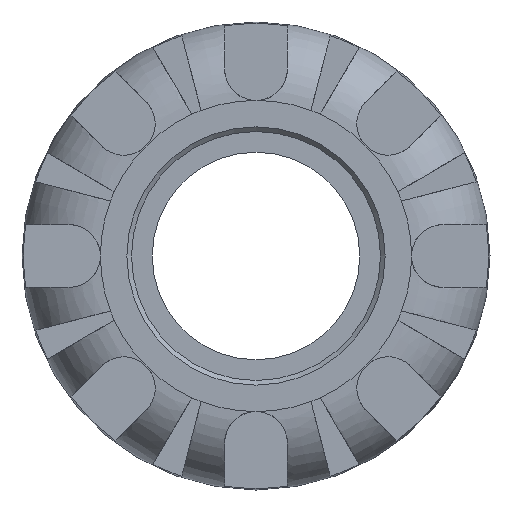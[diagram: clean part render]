
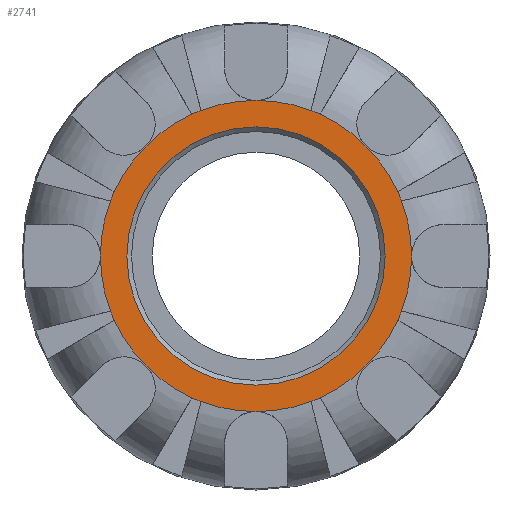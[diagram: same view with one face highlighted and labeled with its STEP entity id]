
A CAD part, left-side view. The second image highlights one B-rep face of the part: STEP entity #2741.
In plain terms, the highlighted planar face has unit normal (-1, 0, 0).
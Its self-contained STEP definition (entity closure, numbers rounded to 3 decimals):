
#22=FACE_BOUND('',#619,.T.);
#47=PLANE('',#2921);
#453=FACE_OUTER_BOUND('',#618,.T.);
#618=EDGE_LOOP('',(#1765,#1766,#1767,#1768,#1769,#1770,#1771,#1772,#1773,
#1774,#1775,#1776,#1777,#1778,#1779,#1780,#1781,#1782,#1783,#1784,#1785,
#1786,#1787,#1788));
#619=EDGE_LOOP('',(#1789));
#796=CIRCLE('',#2920,12.97);
#797=CIRCLE('',#2922,15.625);
#798=CIRCLE('',#2923,15.625);
#799=CIRCLE('',#2924,15.625);
#800=CIRCLE('',#2925,15.625);
#801=CIRCLE('',#2926,15.625);
#802=CIRCLE('',#2927,15.625);
#803=CIRCLE('',#2928,15.625);
#804=CIRCLE('',#2929,15.625);
#805=CIRCLE('',#2930,15.625);
#806=CIRCLE('',#2931,15.625);
#807=CIRCLE('',#2932,15.625);
#808=CIRCLE('',#2933,15.625);
#809=CIRCLE('',#2934,15.625);
#810=CIRCLE('',#2935,15.625);
#811=CIRCLE('',#2936,15.625);
#812=CIRCLE('',#2937,15.625);
#813=CIRCLE('',#2938,15.625);
#814=CIRCLE('',#2939,15.625);
#815=CIRCLE('',#2940,15.625);
#816=CIRCLE('',#2941,15.625);
#817=CIRCLE('',#2942,15.625);
#818=CIRCLE('',#2943,15.625);
#819=CIRCLE('',#2944,15.625);
#820=CIRCLE('',#2945,15.625);
#1066=VERTEX_POINT('',#4271);
#1067=VERTEX_POINT('',#4274);
#1068=VERTEX_POINT('',#4275);
#1069=VERTEX_POINT('',#4277);
#1070=VERTEX_POINT('',#4279);
#1071=VERTEX_POINT('',#4281);
#1072=VERTEX_POINT('',#4283);
#1073=VERTEX_POINT('',#4285);
#1074=VERTEX_POINT('',#4287);
#1075=VERTEX_POINT('',#4289);
#1076=VERTEX_POINT('',#4291);
#1077=VERTEX_POINT('',#4293);
#1078=VERTEX_POINT('',#4295);
#1079=VERTEX_POINT('',#4297);
#1080=VERTEX_POINT('',#4299);
#1081=VERTEX_POINT('',#4301);
#1082=VERTEX_POINT('',#4303);
#1083=VERTEX_POINT('',#4305);
#1084=VERTEX_POINT('',#4307);
#1085=VERTEX_POINT('',#4309);
#1086=VERTEX_POINT('',#4311);
#1087=VERTEX_POINT('',#4313);
#1088=VERTEX_POINT('',#4315);
#1089=VERTEX_POINT('',#4317);
#1090=VERTEX_POINT('',#4319);
#1336=EDGE_CURVE('',#1066,#1066,#796,.T.);
#1337=EDGE_CURVE('',#1067,#1068,#797,.T.);
#1338=EDGE_CURVE('',#1069,#1067,#798,.T.);
#1339=EDGE_CURVE('',#1070,#1069,#799,.T.);
#1340=EDGE_CURVE('',#1071,#1070,#800,.T.);
#1341=EDGE_CURVE('',#1072,#1071,#801,.T.);
#1342=EDGE_CURVE('',#1073,#1072,#802,.T.);
#1343=EDGE_CURVE('',#1074,#1073,#803,.T.);
#1344=EDGE_CURVE('',#1075,#1074,#804,.T.);
#1345=EDGE_CURVE('',#1076,#1075,#805,.T.);
#1346=EDGE_CURVE('',#1077,#1076,#806,.T.);
#1347=EDGE_CURVE('',#1078,#1077,#807,.T.);
#1348=EDGE_CURVE('',#1079,#1078,#808,.T.);
#1349=EDGE_CURVE('',#1080,#1079,#809,.T.);
#1350=EDGE_CURVE('',#1081,#1080,#810,.T.);
#1351=EDGE_CURVE('',#1082,#1081,#811,.T.);
#1352=EDGE_CURVE('',#1083,#1082,#812,.T.);
#1353=EDGE_CURVE('',#1084,#1083,#813,.T.);
#1354=EDGE_CURVE('',#1085,#1084,#814,.T.);
#1355=EDGE_CURVE('',#1086,#1085,#815,.T.);
#1356=EDGE_CURVE('',#1087,#1086,#816,.T.);
#1357=EDGE_CURVE('',#1088,#1087,#817,.T.);
#1358=EDGE_CURVE('',#1089,#1088,#818,.T.);
#1359=EDGE_CURVE('',#1090,#1089,#819,.T.);
#1360=EDGE_CURVE('',#1068,#1090,#820,.T.);
#1765=ORIENTED_EDGE('',*,*,#1337,.F.);
#1766=ORIENTED_EDGE('',*,*,#1338,.F.);
#1767=ORIENTED_EDGE('',*,*,#1339,.F.);
#1768=ORIENTED_EDGE('',*,*,#1340,.F.);
#1769=ORIENTED_EDGE('',*,*,#1341,.F.);
#1770=ORIENTED_EDGE('',*,*,#1342,.F.);
#1771=ORIENTED_EDGE('',*,*,#1343,.F.);
#1772=ORIENTED_EDGE('',*,*,#1344,.F.);
#1773=ORIENTED_EDGE('',*,*,#1345,.F.);
#1774=ORIENTED_EDGE('',*,*,#1346,.F.);
#1775=ORIENTED_EDGE('',*,*,#1347,.F.);
#1776=ORIENTED_EDGE('',*,*,#1348,.F.);
#1777=ORIENTED_EDGE('',*,*,#1349,.F.);
#1778=ORIENTED_EDGE('',*,*,#1350,.F.);
#1779=ORIENTED_EDGE('',*,*,#1351,.F.);
#1780=ORIENTED_EDGE('',*,*,#1352,.F.);
#1781=ORIENTED_EDGE('',*,*,#1353,.F.);
#1782=ORIENTED_EDGE('',*,*,#1354,.F.);
#1783=ORIENTED_EDGE('',*,*,#1355,.F.);
#1784=ORIENTED_EDGE('',*,*,#1356,.F.);
#1785=ORIENTED_EDGE('',*,*,#1357,.F.);
#1786=ORIENTED_EDGE('',*,*,#1358,.F.);
#1787=ORIENTED_EDGE('',*,*,#1359,.F.);
#1788=ORIENTED_EDGE('',*,*,#1360,.F.);
#1789=ORIENTED_EDGE('',*,*,#1336,.F.);
#2741=ADVANCED_FACE('',(#453,#22),#47,.T.);
#2920=AXIS2_PLACEMENT_3D('',#4272,#3271,#3272);
#2921=AXIS2_PLACEMENT_3D('',#4273,#3273,#3274);
#2922=AXIS2_PLACEMENT_3D('',#4276,#3275,#3276);
#2923=AXIS2_PLACEMENT_3D('',#4278,#3277,#3278);
#2924=AXIS2_PLACEMENT_3D('',#4280,#3279,#3280);
#2925=AXIS2_PLACEMENT_3D('',#4282,#3281,#3282);
#2926=AXIS2_PLACEMENT_3D('',#4284,#3283,#3284);
#2927=AXIS2_PLACEMENT_3D('',#4286,#3285,#3286);
#2928=AXIS2_PLACEMENT_3D('',#4288,#3287,#3288);
#2929=AXIS2_PLACEMENT_3D('',#4290,#3289,#3290);
#2930=AXIS2_PLACEMENT_3D('',#4292,#3291,#3292);
#2931=AXIS2_PLACEMENT_3D('',#4294,#3293,#3294);
#2932=AXIS2_PLACEMENT_3D('',#4296,#3295,#3296);
#2933=AXIS2_PLACEMENT_3D('',#4298,#3297,#3298);
#2934=AXIS2_PLACEMENT_3D('',#4300,#3299,#3300);
#2935=AXIS2_PLACEMENT_3D('',#4302,#3301,#3302);
#2936=AXIS2_PLACEMENT_3D('',#4304,#3303,#3304);
#2937=AXIS2_PLACEMENT_3D('',#4306,#3305,#3306);
#2938=AXIS2_PLACEMENT_3D('',#4308,#3307,#3308);
#2939=AXIS2_PLACEMENT_3D('',#4310,#3309,#3310);
#2940=AXIS2_PLACEMENT_3D('',#4312,#3311,#3312);
#2941=AXIS2_PLACEMENT_3D('',#4314,#3313,#3314);
#2942=AXIS2_PLACEMENT_3D('',#4316,#3315,#3316);
#2943=AXIS2_PLACEMENT_3D('',#4318,#3317,#3318);
#2944=AXIS2_PLACEMENT_3D('',#4320,#3319,#3320);
#2945=AXIS2_PLACEMENT_3D('',#4321,#3321,#3322);
#3271=DIRECTION('center_axis',(-1.,0.,0.));
#3272=DIRECTION('ref_axis',(0.,-1.,0.));
#3273=DIRECTION('center_axis',(-1.,0.,0.));
#3274=DIRECTION('ref_axis',(0.,0.,1.));
#3275=DIRECTION('center_axis',(1.,0.,0.));
#3276=DIRECTION('ref_axis',(0.,0.,-1.));
#3277=DIRECTION('center_axis',(1.,0.,0.));
#3278=DIRECTION('ref_axis',(0.,0.,-1.));
#3279=DIRECTION('center_axis',(1.,0.,0.));
#3280=DIRECTION('ref_axis',(0.,0.,-1.));
#3281=DIRECTION('center_axis',(1.,0.,0.));
#3282=DIRECTION('ref_axis',(0.,0.,-1.));
#3283=DIRECTION('center_axis',(1.,0.,0.));
#3284=DIRECTION('ref_axis',(0.,0.,-1.));
#3285=DIRECTION('center_axis',(1.,0.,0.));
#3286=DIRECTION('ref_axis',(0.,0.,-1.));
#3287=DIRECTION('center_axis',(1.,0.,0.));
#3288=DIRECTION('ref_axis',(0.,0.,-1.));
#3289=DIRECTION('center_axis',(1.,0.,0.));
#3290=DIRECTION('ref_axis',(0.,0.,-1.));
#3291=DIRECTION('center_axis',(1.,0.,0.));
#3292=DIRECTION('ref_axis',(0.,0.,-1.));
#3293=DIRECTION('center_axis',(1.,0.,0.));
#3294=DIRECTION('ref_axis',(0.,0.,-1.));
#3295=DIRECTION('center_axis',(1.,0.,0.));
#3296=DIRECTION('ref_axis',(0.,0.,-1.));
#3297=DIRECTION('center_axis',(1.,0.,0.));
#3298=DIRECTION('ref_axis',(0.,0.,-1.));
#3299=DIRECTION('center_axis',(1.,0.,0.));
#3300=DIRECTION('ref_axis',(0.,0.,-1.));
#3301=DIRECTION('center_axis',(1.,0.,0.));
#3302=DIRECTION('ref_axis',(0.,0.,-1.));
#3303=DIRECTION('center_axis',(1.,0.,0.));
#3304=DIRECTION('ref_axis',(0.,0.,-1.));
#3305=DIRECTION('center_axis',(1.,0.,0.));
#3306=DIRECTION('ref_axis',(0.,0.,-1.));
#3307=DIRECTION('center_axis',(1.,0.,0.));
#3308=DIRECTION('ref_axis',(0.,0.,-1.));
#3309=DIRECTION('center_axis',(1.,0.,0.));
#3310=DIRECTION('ref_axis',(0.,0.,-1.));
#3311=DIRECTION('center_axis',(1.,0.,0.));
#3312=DIRECTION('ref_axis',(0.,0.,-1.));
#3313=DIRECTION('center_axis',(1.,0.,0.));
#3314=DIRECTION('ref_axis',(0.,0.,-1.));
#3315=DIRECTION('center_axis',(1.,0.,0.));
#3316=DIRECTION('ref_axis',(0.,0.,-1.));
#3317=DIRECTION('center_axis',(1.,0.,0.));
#3318=DIRECTION('ref_axis',(0.,0.,-1.));
#3319=DIRECTION('center_axis',(1.,0.,0.));
#3320=DIRECTION('ref_axis',(0.,0.,-1.));
#3321=DIRECTION('center_axis',(1.,0.,0.));
#3322=DIRECTION('ref_axis',(0.,0.,-1.));
#4271=CARTESIAN_POINT('',(-49.,12.97,0.));
#4272=CARTESIAN_POINT('Origin',(-49.,0.,0.));
#4273=CARTESIAN_POINT('Origin',(-49.,15.625,0.));
#4274=CARTESIAN_POINT('',(-49.,15.625,0.));
#4275=CARTESIAN_POINT('',(-49.,14.62,5.514));
#4276=CARTESIAN_POINT('Origin',(-49.,0.,0.));
#4277=CARTESIAN_POINT('',(-49.,14.62,-5.514));
#4278=CARTESIAN_POINT('Origin',(-49.,0.,0.));
#4279=CARTESIAN_POINT('',(-49.,14.237,-6.438));
#4280=CARTESIAN_POINT('Origin',(-49.,0.,0.));
#4281=CARTESIAN_POINT('',(-49.,11.049,-11.049));
#4282=CARTESIAN_POINT('Origin',(-49.,0.,0.));
#4283=CARTESIAN_POINT('',(-49.,6.438,-14.237));
#4284=CARTESIAN_POINT('Origin',(-49.,0.,0.));
#4285=CARTESIAN_POINT('',(-49.,5.514,-14.62));
#4286=CARTESIAN_POINT('Origin',(-49.,0.,0.));
#4287=CARTESIAN_POINT('',(-49.,0.,-15.625));
#4288=CARTESIAN_POINT('Origin',(-49.,0.,0.));
#4289=CARTESIAN_POINT('',(-49.,-5.514,-14.62));
#4290=CARTESIAN_POINT('Origin',(-49.,0.,0.));
#4291=CARTESIAN_POINT('',(-49.,-6.438,-14.237));
#4292=CARTESIAN_POINT('Origin',(-49.,0.,0.));
#4293=CARTESIAN_POINT('',(-49.,-11.049,-11.049));
#4294=CARTESIAN_POINT('Origin',(-49.,0.,0.));
#4295=CARTESIAN_POINT('',(-49.,-14.237,-6.438));
#4296=CARTESIAN_POINT('Origin',(-49.,0.,0.));
#4297=CARTESIAN_POINT('',(-49.,-14.62,-5.514));
#4298=CARTESIAN_POINT('Origin',(-49.,0.,0.));
#4299=CARTESIAN_POINT('',(-49.,-15.625,0.));
#4300=CARTESIAN_POINT('Origin',(-49.,0.,0.));
#4301=CARTESIAN_POINT('',(-49.,-14.62,5.514));
#4302=CARTESIAN_POINT('Origin',(-49.,0.,0.));
#4303=CARTESIAN_POINT('',(-49.,-14.237,6.438));
#4304=CARTESIAN_POINT('Origin',(-49.,0.,0.));
#4305=CARTESIAN_POINT('',(-49.,-11.049,11.049));
#4306=CARTESIAN_POINT('Origin',(-49.,0.,0.));
#4307=CARTESIAN_POINT('',(-49.,-6.438,14.237));
#4308=CARTESIAN_POINT('Origin',(-49.,0.,0.));
#4309=CARTESIAN_POINT('',(-49.,-5.514,14.62));
#4310=CARTESIAN_POINT('Origin',(-49.,0.,0.));
#4311=CARTESIAN_POINT('',(-49.,0.,15.625));
#4312=CARTESIAN_POINT('Origin',(-49.,0.,0.));
#4313=CARTESIAN_POINT('',(-49.,5.514,14.62));
#4314=CARTESIAN_POINT('Origin',(-49.,0.,0.));
#4315=CARTESIAN_POINT('',(-49.,6.438,14.237));
#4316=CARTESIAN_POINT('Origin',(-49.,0.,0.));
#4317=CARTESIAN_POINT('',(-49.,11.049,11.049));
#4318=CARTESIAN_POINT('Origin',(-49.,0.,0.));
#4319=CARTESIAN_POINT('',(-49.,14.237,6.438));
#4320=CARTESIAN_POINT('Origin',(-49.,0.,0.));
#4321=CARTESIAN_POINT('Origin',(-49.,0.,0.));
